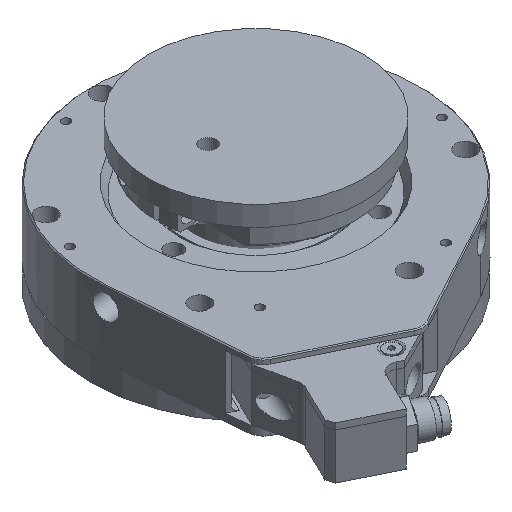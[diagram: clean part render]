
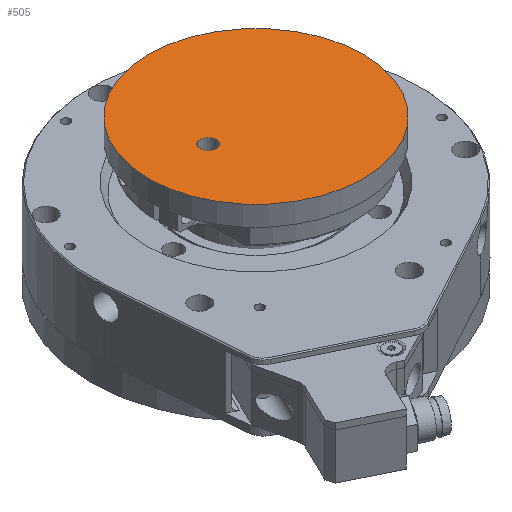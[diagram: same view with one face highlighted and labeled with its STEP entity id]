
A CAD part, isometric view. The second image highlights one B-rep face of the part: STEP entity #505.
In plain terms, the highlighted planar face has unit normal (0, 0, 1).
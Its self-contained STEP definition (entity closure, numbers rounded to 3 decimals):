
#505 = ADVANCED_FACE( '', ( #1279, #1280 ), #1281, .T. );
#1279 = FACE_BOUND( '', #2383, .T. );
#1280 = FACE_OUTER_BOUND( '', #2384, .T. );
#1281 = PLANE( '', #2385 );
#2383 = EDGE_LOOP( '', ( #4398 ) );
#2384 = EDGE_LOOP( '', ( #4399 ) );
#2385 = AXIS2_PLACEMENT_3D( '', #4400, #4401, #4402 );
#4398 = ORIENTED_EDGE( '', *, *, #5786, .F. );
#4399 = ORIENTED_EDGE( '', *, *, #5788, .F. );
#4400 = CARTESIAN_POINT( '', ( -27., 0., 8.13 ) );
#4401 = DIRECTION( '', ( 0., 0., 1. ) );
#4402 = DIRECTION( '', ( 1., 0., 0. ) );
#5786 = EDGE_CURVE( '', #6817, #6817, #6818, .T. );
#5788 = EDGE_CURVE( '', #6821, #6821, #6822, .T. );
#6817 = VERTEX_POINT( '', #8496 );
#6818 = CIRCLE( '', #8497, 1.993 );
#6821 = VERTEX_POINT( '', #8500 );
#6822 = CIRCLE( '', #8501, 27. );
#8496 = CARTESIAN_POINT( '', ( -10.007, 0., 8.13 ) );
#8497 = AXIS2_PLACEMENT_3D( '', #10456, #10457, #10458 );
#8500 = CARTESIAN_POINT( '', ( -27., 0., 8.13 ) );
#8501 = AXIS2_PLACEMENT_3D( '', #10462, #10463, #10464 );
#10456 = CARTESIAN_POINT( '', ( -12., 0., 8.13 ) );
#10457 = DIRECTION( '', ( 0., 0., 1. ) );
#10458 = DIRECTION( '', ( 1., 0., 0. ) );
#10462 = CARTESIAN_POINT( '', ( 0., 0., 8.13 ) );
#10463 = DIRECTION( '', ( 0., 0., -1. ) );
#10464 = DIRECTION( '', ( -1., 0., 0. ) );
